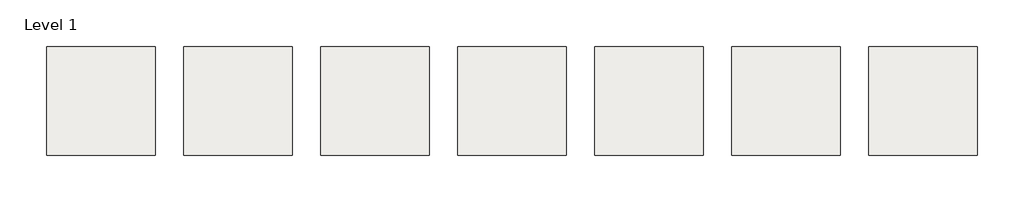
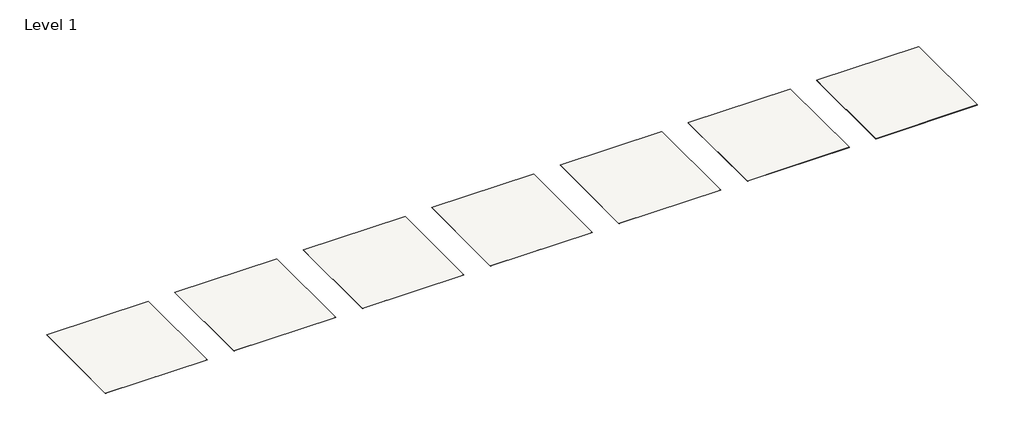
# One storey: 7 slabs.
"""IFC4 building model written with IfcOpenShell, lengths in millimetres."""

import ifcopenshell
import ifcopenshell.guid

model = None  # the IFC model being written
_history = None  # IfcOwnerHistory: only IFC2X3 demands one
_inside = {}  # id of a spatial element -> (the spatial element, [elements in it])
_under = {}  # id of a project, library or spatial element -> (it, [spatial elements below it])
_declared = {}  # id of a project -> (the project, [libraries it declares])
_typed = {}  # id of a type object -> (the type object, [elements of that type])
_made_of = {}  # id of a material, layer set ... -> (it, [elements and type objects made of it])


def new_model(schema):
    """Start an empty IFC model of exactly this schema.

    Asked for "IFC4X3", IfcOpenShell would pick the latest addendum, in which some entities
    have other attributes; the version numbers below select the first issue.
    IFC2X3 requires an IfcOwnerHistory on every rooted entity: one is made here for all.
    """
    global model, _history
    if schema == "IFC4X3":
        model = ifcopenshell.file(schema_version=(4, 3, 0, 0))
    else:
        model = ifcopenshell.file(schema=schema)
    _inside.clear()
    _under.clear()
    _declared.clear()
    _typed.clear()
    _made_of.clear()
    _history = None
    if model.schema == "IFC2X3":
        org = make("IfcOrganization", Name="unknown")
        user = make(
            "IfcPersonAndOrganization",
            ThePerson=make("IfcPerson", FamilyName="unknown"),
            TheOrganization=org,
        )
        app = make(
            "IfcApplication",
            ApplicationDeveloper=org,
            Version="unknown",
            ApplicationFullName="unknown",
            ApplicationIdentifier="unknown",
        )
        _history = make(
            "IfcOwnerHistory",
            OwningUser=user,
            OwningApplication=app,
            ChangeAction="ADDED",
            CreationDate=0,
        )
    return model


def make(cls, **values):
    """One entity of the class cls with the attributes given. An attribute that is None is left unset."""
    return model.create_entity(
        cls, **{name: value for name, value in values.items() if value is not None}
    )


def rooted(cls, **values):
    """An entity with a GlobalId (a new one), such as an element, a storey or a relation."""
    return make(cls, GlobalId=ifcopenshell.guid.new(), OwnerHistory=_history, **values)


def si_unit(unit_type, name, prefix=None):
    """IfcSIUnit, for example si_unit("LENGTHUNIT", "METRE", prefix="MILLI")."""
    return make("IfcSIUnit", UnitType=unit_type, Prefix=prefix, Name=name)


def assignment(units):
    """IfcUnitAssignment: the units of a project."""
    return None if units is None else make("IfcUnitAssignment", Units=units)


def point(xyz):
    """IfcCartesianPoint."""
    return None if xyz is None else make("IfcCartesianPoint", Coordinates=xyz)


def direction(xyz):
    """IfcDirection."""
    return None if xyz is None else make("IfcDirection", DirectionRatios=xyz)


def frame(location, z_axis=None, x_axis=None):
    """IfcAxis2Placement3D, a coordinate frame: its origin and axes. An axis left out is left unset."""
    return make(
        "IfcAxis2Placement3D",
        Location=point(location),
        Axis=direction(z_axis),
        RefDirection=direction(x_axis),
    )


def origin():
    """The frame at (0, 0, 0) with its axes left unset."""
    return frame((0.0, 0.0, 0.0))


def place(relative_to, where):
    """IfcLocalPlacement: puts the frame where relative to a parent placement (None: the world)."""
    return make(
        "IfcLocalPlacement", PlacementRelTo=relative_to, RelativePlacement=where
    )


def context(
    kind, dimensions, precision=None, world=None, true_north=None, identifier=None
):
    """IfcGeometricRepresentationContext, for example the 3D "Model" context."""
    return make(
        "IfcGeometricRepresentationContext",
        ContextIdentifier=identifier,
        ContextType=kind,
        CoordinateSpaceDimension=dimensions,
        Precision=precision,
        WorldCoordinateSystem=world,
        TrueNorth=true_north,
    )


def project(units=None, contexts=None):
    """IfcProject with its units and contexts."""
    return rooted(
        "IfcProject",
        Name="project",
        RepresentationContexts=contexts,
        UnitsInContext=assignment(units),
    )


def spatial(cls, under=None, at=None, **own):
    """A site, building, storey or space (cls), placed at a placement, below another one or the project."""
    s = rooted(cls, ObjectPlacement=at, **own)
    if under is not None:
        _under.setdefault(under.id(), (under, []))[1].append(s)
    return s


def polyline(points):
    """IfcPolyline through the points."""
    return make("IfcPolyline", Points=[point(p) for p in points])


def outline(outer, holes=None, kind="AREA"):
    """IfcArbitraryClosedProfileDef: a profile drawn as a closed curve; with holes, ...WithVoids."""
    if holes is None:
        return make("IfcArbitraryClosedProfileDef", ProfileType=kind, OuterCurve=outer)
    return make(
        "IfcArbitraryProfileDefWithVoids",
        ProfileType=kind,
        OuterCurve=outer,
        InnerCurves=holes,
    )


def extrude(swept, where, along, depth):
    """IfcExtrudedAreaSolid: the profile swept, set in the frame where, extruded along a direction by depth."""
    return make(
        "IfcExtrudedAreaSolid",
        SweptArea=swept,
        Position=where,
        ExtrudedDirection=direction(along),
        Depth=depth,
    )


def shape(context_of_items, identifier, shape_type, items):
    """IfcShapeRepresentation: the items that make up one representation, for example the "Body"."""
    return make(
        "IfcShapeRepresentation",
        ContextOfItems=context_of_items,
        RepresentationIdentifier=identifier,
        RepresentationType=shape_type,
        Items=items,
    )


def made_of(thing, what):
    """Note that an element or type object is made of a material, layer set ...; save() writes the relation."""
    if what is not None:
        _made_of.setdefault(what.id(), (what, []))[1].append(thing)
    return thing


def element(
    cls,
    number,
    at=None,
    inside=None,
    cuts=None,
    type_object=None,
    material=None,
    context=None,
    identifier="Body",
    shape_type=None,
    held_by="IfcProductDefinitionShape",
    body=None,
    shapes=None,
    **own,
):
    """One element of the class cls, such as IfcWall. Its Tag is "e" and its number.

    at: its placement. inside: the storey or other place that contains it. cuts: it is an
    opening in that element (IfcRelVoidsElement). A single representation is given by context,
    identifier, shape_type and body (its items); several are given by shapes. held_by: the class
    of the entity that holds the representations. save() writes the other relations.
    """
    e = rooted(cls, Tag="e%d" % number, ObjectPlacement=at, **own)
    if body is not None:
        shapes = [shape(context, identifier, shape_type, body)]
    if shapes is not None:
        e.Representation = make(held_by, Representations=shapes)
    if inside is not None:
        _inside.setdefault(inside.id(), (inside, []))[1].append(e)
    if cuts is not None:
        rooted(
            "IfcRelVoidsElement", RelatingBuildingElement=cuts, RelatedOpeningElement=e
        )
    if type_object is not None:
        _typed.setdefault(type_object.id(), (type_object, []))[1].append(e)
    return made_of(e, material)


def aggregate(whole, parts):
    """IfcRelAggregates: a whole, such as a stair, and the parts it consists of."""
    return rooted("IfcRelAggregates", RelatingObject=whole, RelatedObjects=parts)


def save(model, path):
    """Write the relations noted so far, then the file.

    IfcRelAggregates (storeys below a building ...), IfcRelContainedInSpatialStructure (elements
    in a storey), IfcRelDefinesByType, IfcRelAssociatesMaterial and IfcRelDeclares: one each for
    every whole, place, type object, material and project.
    """
    for whole, parts in _under.values():
        aggregate(whole, parts)
    for where, things in _inside.values():
        rooted(
            "IfcRelContainedInSpatialStructure",
            RelatedElements=things,
            RelatingStructure=where,
        )
    for kind, things in _typed.values():
        rooted("IfcRelDefinesByType", RelatedObjects=things, RelatingType=kind)
    for what, things in _made_of.values():
        rooted("IfcRelAssociatesMaterial", RelatedObjects=things, RelatingMaterial=what)
    for by, libraries in _declared.values():
        rooted("IfcRelDeclares", RelatingContext=by, RelatedDefinitions=libraries)
    model.write(path)


model = new_model("IFC4")

# Units and contexts
model_context = context("Model", 3, world=origin())
ifc_project = project(units=[si_unit("LENGTHUNIT", "METRE", prefix="MILLI")], contexts=[model_context])

# Site, building, storey
site = spatial("IfcSite", under=ifc_project)
building = spatial("IfcBuilding", under=site)
storey = spatial("IfcBuildingStorey", under=building, Name="Level 1", Elevation=0.0)

# Slabs
placement = place(None, origin())
element("IfcSlab", 1, ObjectType="Thesize_Neolith_3mm+-Nero- 3600x1200 mm - Satin", at=placement, inside=storey, context=model_context, shape_type="SweptSolid", body=[
    extrude(outline(polyline([(-39667.3923283, -47657.477561), (-39667.3923283, -52657.477561), (-44667.3923283, -52657.477561), (-44667.3923283, -47657.477561), (-39667.3923283, -47657.477561)])), frame((0.0, 0.0, -3.0), z_axis=(0.0, 0.0, 1.0), x_axis=(1.0, 0.0, 0.0)), (0.0, 0.0, 1.0), 3.0),
])
element("IfcSlab", 2, ObjectType="Thesize_Neolith_6mm+-Nero- 3200x1500 mm - Satin", at=placement, inside=storey, context=model_context, shape_type="SweptSolid", body=[
    extrude(outline(polyline([(-33367.3923283, -47657.477561), (-33367.3923283, -52657.477561), (-38367.3923283, -52657.477561), (-38367.3923283, -47657.477561), (-33367.3923283, -47657.477561)])), frame((0.0, 0.0, -6.0), z_axis=(0.0, 0.0, 1.0), x_axis=(1.0, 0.0, 0.0)), (0.0, 0.0, 1.0), 6.0),
])
element("IfcSlab", 3, ObjectType="Thesize_Neolith_12mm-Nero- 3200x1600 mm - Satin", at=placement, inside=storey, context=model_context, shape_type="SweptSolid", body=[
    extrude(outline(polyline([(-27067.3923283, -47657.477561), (-27067.3923283, -52657.477561), (-32067.3923283, -52657.477561), (-32067.3923283, -47657.477561), (-27067.3923283, -47657.477561)])), frame((0.0, 0.0, -12.0), z_axis=(0.0, 0.0, 1.0), x_axis=(1.0, 0.0, 0.0)), (0.0, 0.0, 1.0), 12.0),
])
element("IfcSlab", 4, ObjectType="Thesize_Neolith_20mm-Nero- 3200x1600 mm - Satin", at=placement, inside=storey, context=model_context, shape_type="SweptSolid", body=[
    extrude(outline(polyline([(-20767.3923283, -47657.477561), (-20767.3923283, -52657.477561), (-25767.3923283, -52657.477561), (-25767.3923283, -47657.477561), (-20767.3923283, -47657.477561)])), frame((0.0, 0.0, -20.0), z_axis=(0.0, 0.0, 1.0), x_axis=(1.0, 0.0, 0.0)), (0.0, 0.0, 1.0), 20.0),
])
element("IfcSlab", 5, ObjectType="Thesize_Neolith_6mm+-Nero- 3200x1500 mm - Polish", at=placement, inside=storey, context=model_context, shape_type="SweptSolid", body=[
    extrude(outline(polyline([(-45967.3923283, -47657.477561), (-45967.3923283, -52657.477561), (-50967.3923283, -52657.477561), (-50967.3923283, -47657.477561), (-45967.3923283, -47657.477561)])), frame((0.0, 0.0, -6.0), z_axis=(0.0, 0.0, 1.0), x_axis=(1.0, 0.0, 0.0)), (0.0, 0.0, 1.0), 6.0),
])
element("IfcSlab", 6, ObjectType="Thesize_Neolith_6mm+-Nero- 3600x1200 mm - Satin", at=placement, inside=storey, context=model_context, shape_type="SweptSolid", body=[
    extrude(outline(polyline([(-52267.3923283, -47657.477561), (-52267.3923283, -52657.477561), (-57267.3923283, -52657.477561), (-57267.3923283, -47657.477561), (-52267.3923283, -47657.477561)])), frame((0.0, 0.0, -6.0), z_axis=(0.0, 0.0, 1.0), x_axis=(1.0, 0.0, 0.0)), (0.0, 0.0, 1.0), 6.0),
])
element("IfcSlab", 7, ObjectType="Thesize_Neolith_6mm-Nero- 2600x1200 mm - Satin", at=placement, inside=storey, context=model_context, shape_type="SweptSolid", body=[
    extrude(outline(polyline([(-58567.3923283, -47657.477561), (-58567.3923283, -52657.477561), (-63567.3923283, -52657.477561), (-63567.3923283, -47657.477561), (-58567.3923283, -47657.477561)])), frame((0.0, 0.0, -6.0), z_axis=(0.0, 0.0, 1.0), x_axis=(1.0, 0.0, 0.0)), (0.0, 0.0, 1.0), 6.0),
])

save(model, "model.ifc")
